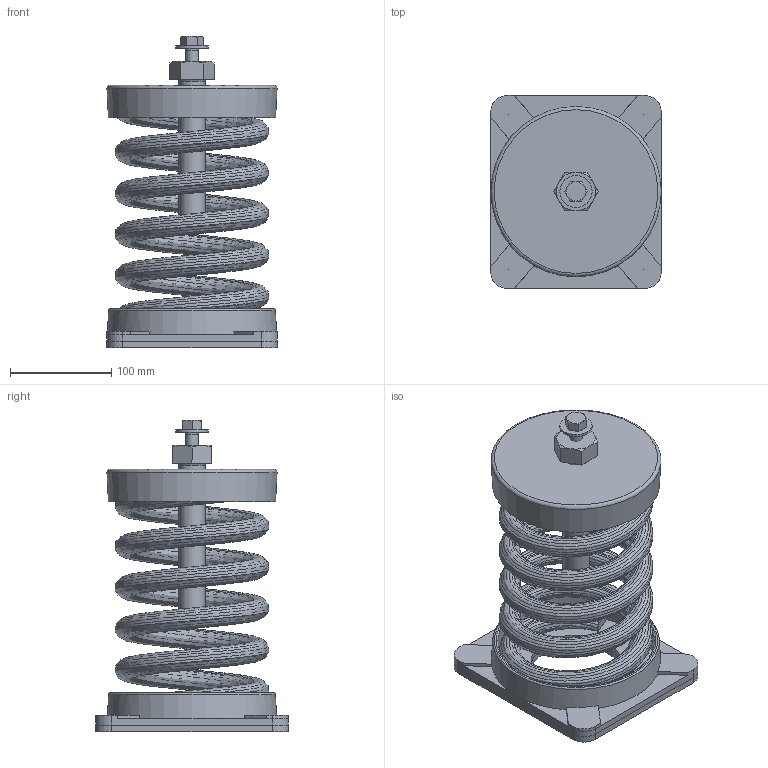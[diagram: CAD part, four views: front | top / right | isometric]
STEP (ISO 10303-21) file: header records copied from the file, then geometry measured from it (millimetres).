
FILE_DESCRIPTION(/* description */ (''),/* implementation_level */ '2;1');
FILE_NAME(/* name */ '\\Mleuckthor2\cad-proe_solids\WEBSITE FILES 05.22.13\STEP\SLF-100 SERIES\SLF-135.stp',/* time_stamp */ '2016-01-14T13:28:10-05:00',/* author */ ('rramoutar'),/* organization */ ('Mason Industries Inc.'),/* preprocessor_version */ 'ST-DEVELOPER v15.6',/* originating_system */ 'Autodesk Inventor 2015',/* authorisation */ '');
FILE_SCHEMA (('CONFIG_CONTROL_DESIGN'));
Length unit declared in the file: inch
Products named in the file (1): SLF-135
Bounding box: 168.28 x 190.5 x 307.06 mm (x, y, z)
Volume: 884109.8 mm3; surface area: 541724.5 mm2
Topology: 7 solids, 7 shells, 228 faces, 549 edges, 340 vertices
Faces by surface type: plane 135, cone 34, cylinder 32, bspline 22, torus 5
Full cylindrical faces by diameter (mm): 10.592 x1, 12.7 x5, 13.487 x1, 15.875 x4, 19.05 x1, 22.225 x1, 25.959 x1, 31.75 x1, 38.1 x1, 88.9 x2, 154.781 x1, 155.575 x1
Entity records: 17011 total; most frequent: CARTESIAN_POINT 11894, ORIENTED_EDGE 1006, DIRECTION 926, EDGE_CURVE 503, AXIS2_PLACEMENT_3D 336, VERTEX_POINT 329, EDGE_LOOP 286, LINE 254
